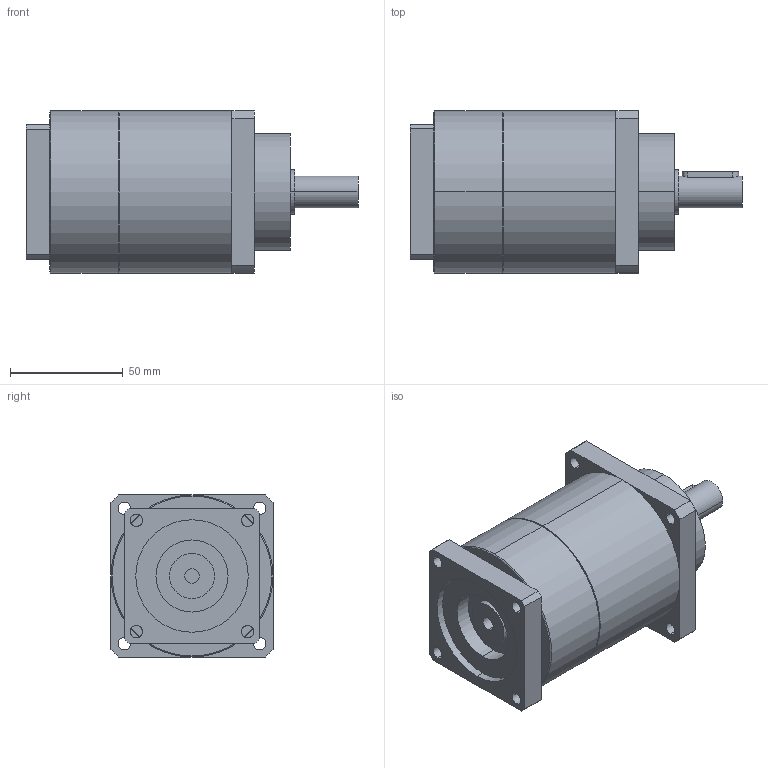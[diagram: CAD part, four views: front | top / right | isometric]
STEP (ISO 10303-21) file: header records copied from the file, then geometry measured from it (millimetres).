
FILE_DESCRIPTION(('CoCreate Modeling STEP Export'),'2;1');
FILE_NAME('GPT75_ig-9-12-16-20-25-28-35-40-50-70-100_14_B5T_6.35_P20.stp','2014-08-27T13:39:16',(''),(''),'CoCreate Modeling STEP processor for AP214 (Solid Model)','CoCreate Modeling 16.00C 25-Feb-2009 (C) Parametric Technology GmbH','');
FILE_SCHEMA(('AUTOMOTIVE_DESIGN { 1 0 10303 214 1 1 1 1 }'));
Length unit declared in the file: millimetre
Products named in the file (2): GPT75_ig-9-12-16-20-25-28-35-40-50-70-100_14_B5T_6.35_P20
Assembly tree (1 placements, depth 2):
  GPT75_ig-9-12-16-20-25-28-35-40-50-70-100_14_B5T_6.35_P20
    GPT75_ig-9-12-16-20-25-28-35-40-50-70-100_14_B5T_6.35_P20
Bounding box: 147.5 x 72 x 72 mm (x, y, z)
Volume: 443627.5 mm3; surface area: 41952.9 mm2
Topology: 1 solids, 1 shells, 88 faces, 221 edges, 140 vertices
Faces by surface type: cylinder 46, plane 38, cone 4
Entity records: 2651 total; most frequent: CARTESIAN_POINT 739, ORIENTED_EDGE 442, DIRECTION 334, EDGE_CURVE 221, VERTEX_POINT 140, AXIS2_PLACEMENT_3D 123, EDGE_LOOP 109, VECTOR 88
